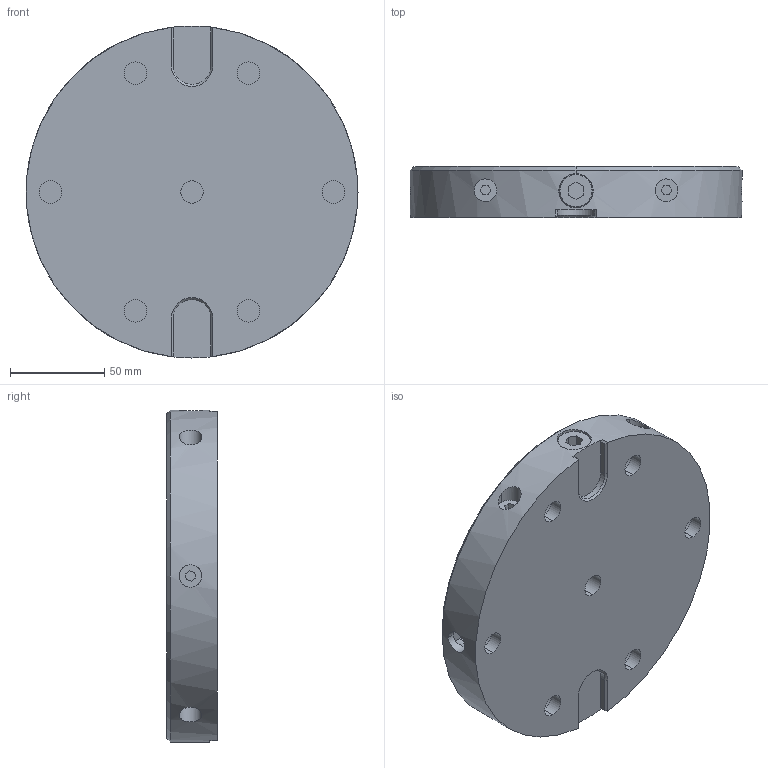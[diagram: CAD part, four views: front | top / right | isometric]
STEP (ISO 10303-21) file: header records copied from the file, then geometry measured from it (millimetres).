
FILE_DESCRIPTION (( 'STEP AP203' ), '1' );
FILE_NAME ('45800.STEP', '2018-10-29T10:00:10', ( '' ), ( '' ), 'SwSTEP 2.0', 'SolidWorks 2015', '' );
FILE_SCHEMA (( 'CONFIG_CONTROL_DESIGN' ));
Length unit declared in the file: millimetre
Products named in the file (1): 45800
Bounding box: 176 x 27 x 176 mm (x, y, z)
Volume: 541756.2 mm3; surface area: 99865.4 mm2
Topology: 14 solids, 14 shells, 289 faces, 642 edges, 392 vertices
Faces by surface type: cylinder 117, plane 111, cone 45, torus 16
Entity records: 9691 total; most frequent: CARTESIAN_POINT 3115, DIRECTION 1407, ORIENTED_EDGE 1284, EDGE_CURVE 642, AXIS2_PLACEMENT_3D 539, VERTEX_POINT 392, EDGE_LOOP 338, VECTOR 329
